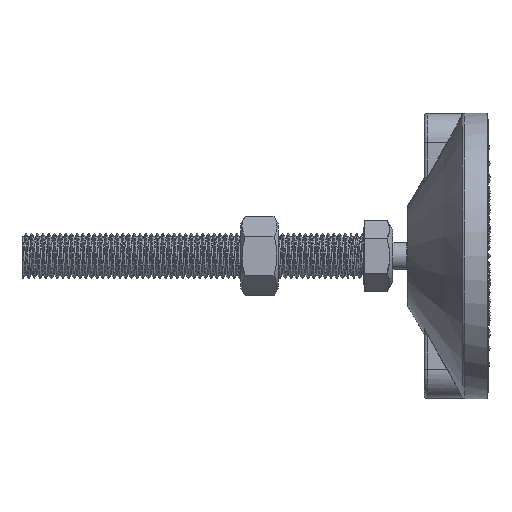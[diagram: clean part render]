
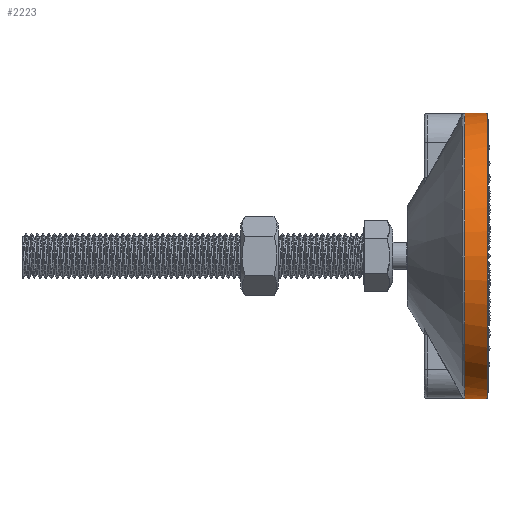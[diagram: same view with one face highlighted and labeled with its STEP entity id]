
A CAD part, left-side view. The second image highlights one B-rep face of the part: STEP entity #2223.
In plain terms, the highlighted cylindrical face has radius 50 mm (diameter 100 mm), a partial arc.
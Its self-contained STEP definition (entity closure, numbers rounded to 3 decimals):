
#686 = VERTEX_POINT ( 'NONE', #37573 ) ;
#1639 = B_SPLINE_CURVE_WITH_KNOTS ( 'NONE', 3,
 ( #20579, #42477, #41626, #25176 ),
 .UNSPECIFIED., .F., .F.,
 ( 4, 4 ),
 ( 0., 0.002 ),
 .UNSPECIFIED. ) ;
#2223 = ADVANCED_FACE ( 'NONE', ( #46158 ), #33762, .T. ) ;
#2317 = ORIENTED_EDGE ( 'NONE', *, *, #8159, .T. ) ;
#2546 = CARTESIAN_POINT ( 'NONE',  ( -1.495, 8.21, 49.978 ) ) ;
#3009 = DIRECTION ( 'NONE',  ( 0., -1., 0. ) ) ;
#3120 = ORIENTED_EDGE ( 'NONE', *, *, #6355, .T. ) ;
#3129 = AXIS2_PLACEMENT_3D ( 'NONE', #5406, #23256, #49487 ) ;
#3220 = DIRECTION ( 'NONE',  ( 0., 0., -1. ) ) ;
#3480 = CARTESIAN_POINT ( 'NONE',  ( 0., 8.5, -50. ) ) ;
#4631 = VERTEX_POINT ( 'NONE', #4994 ) ;
#4994 = CARTESIAN_POINT ( 'NONE',  ( 0., 0., -50. ) ) ;
#5406 = CARTESIAN_POINT ( 'NONE',  ( 0., 7.934, 0. ) ) ;
#6355 = EDGE_CURVE ( 'NONE', #49801, #686, #49158, .T. ) ;
#7833 = CARTESIAN_POINT ( 'NONE',  ( -3.077, 7.934, -49.912 ) ) ;
#7938 = CARTESIAN_POINT ( 'NONE',  ( 0., 0., 50. ) ) ;
#8159 = EDGE_CURVE ( 'NONE', #37562, #4631, #20295, .T. ) ;
#8226 = LINE ( 'NONE', #7938, #36110 ) ;
#8799 = DIRECTION ( 'NONE',  ( 0., -1., 0. ) ) ;
#9758 = AXIS2_PLACEMENT_3D ( 'NONE', #39206, #13273, #22191 ) ;
#11818 = VERTEX_POINT ( 'NONE', #24065 ) ;
#12566 = AXIS2_PLACEMENT_3D ( 'NONE', #28571, #25095, #3220 ) ;
#13273 = DIRECTION ( 'NONE',  ( 0., -1., 0. ) ) ;
#13458 = CIRCLE ( 'NONE', #9758, 50. ) ;
#15859 = ORIENTED_EDGE ( 'NONE', *, *, #49378, .T. ) ;
#16295 = B_SPLINE_CURVE_WITH_KNOTS ( 'NONE', 3,
 ( #40655, #54776, #45563, #53915 ),
 .UNSPECIFIED., .F., .F.,
 ( 4, 4 ),
 ( 0., 0.002 ),
 .UNSPECIFIED. ) ;
#16367 = CARTESIAN_POINT ( 'NONE',  ( -3.883, 7.934, 49.849 ) ) ;
#18743 = CARTESIAN_POINT ( 'NONE',  ( 0., 8.5, 50. ) ) ;
#19481 = EDGE_LOOP ( 'NONE', ( #45860, #24030, #34236, #3120, #40312, #15859, #2317, #31660 ) ) ;
#19875 = CARTESIAN_POINT ( 'NONE',  ( -3.883, 7.934, 49.849 ) ) ;
#20295 = LINE ( 'NONE', #37875, #47587 ) ;
#20579 = CARTESIAN_POINT ( 'NONE',  ( -1.495, 8.21, -49.978 ) ) ;
#22191 = DIRECTION ( 'NONE',  ( 0., 0., -1. ) ) ;
#23256 = DIRECTION ( 'NONE',  ( 0., -1., 0. ) ) ;
#24030 = ORIENTED_EDGE ( 'NONE', *, *, #42780, .T. ) ;
#24065 = CARTESIAN_POINT ( 'NONE',  ( -1.495, 8.21, -49.978 ) ) ;
#24386 = EDGE_CURVE ( 'NONE', #32869, #4631, #13458, .T. ) ;
#25095 = DIRECTION ( 'NONE',  ( 0., -1., 0. ) ) ;
#25176 = CARTESIAN_POINT ( 'NONE',  ( 0., 8.5, -50. ) ) ;
#26354 = B_SPLINE_CURVE_WITH_KNOTS ( 'NONE', 3,
 ( #2546, #38559, #49867, #16367 ),
 .UNSPECIFIED., .F., .F.,
 ( 4, 4 ),
 ( 0., 0.002 ),
 .UNSPECIFIED. ) ;
#26432 = VERTEX_POINT ( 'NONE', #18743 ) ;
#28092 = CARTESIAN_POINT ( 'NONE',  ( 0., 0., 50. ) ) ;
#28571 = CARTESIAN_POINT ( 'NONE',  ( 0., 0., 0. ) ) ;
#31660 = ORIENTED_EDGE ( 'NONE', *, *, #24386, .F. ) ;
#32869 = VERTEX_POINT ( 'NONE', #28092 ) ;
#33762 = CYLINDRICAL_SURFACE ( 'NONE', #12566, 50. ) ;
#34236 = ORIENTED_EDGE ( 'NONE', *, *, #35163, .T. ) ;
#35163 = EDGE_CURVE ( 'NONE', #38421, #49801, #26354, .T. ) ;
#35418 = EDGE_CURVE ( 'NONE', #26432, #32869, #8226, .T. ) ;
#36110 = VECTOR ( 'NONE', #8799, 1000. ) ;
#37562 = VERTEX_POINT ( 'NONE', #3480 ) ;
#37573 = CARTESIAN_POINT ( 'NONE',  ( -3.883, 7.934, -49.849 ) ) ;
#37875 = CARTESIAN_POINT ( 'NONE',  ( 0., 0., -50. ) ) ;
#38421 = VERTEX_POINT ( 'NONE', #51206 ) ;
#38559 = CARTESIAN_POINT ( 'NONE',  ( -2.282, 8.038, 49.954 ) ) ;
#38662 = CARTESIAN_POINT ( 'NONE',  ( -2.282, 8.038, -49.954 ) ) ;
#39206 = CARTESIAN_POINT ( 'NONE',  ( 0., 0., 0. ) ) ;
#40312 = ORIENTED_EDGE ( 'NONE', *, *, #40949, .T. ) ;
#40655 = CARTESIAN_POINT ( 'NONE',  ( 0., 8.5, 50. ) ) ;
#40949 = EDGE_CURVE ( 'NONE', #686, #11818, #56930, .T. ) ;
#41626 = CARTESIAN_POINT ( 'NONE',  ( -0.499, 8.408, -50. ) ) ;
#42477 = CARTESIAN_POINT ( 'NONE',  ( -0.999, 8.318, -49.992 ) ) ;
#42707 = CARTESIAN_POINT ( 'NONE',  ( -3.883, 7.934, -49.849 ) ) ;
#42780 = EDGE_CURVE ( 'NONE', #26432, #38421, #16295, .T. ) ;
#43269 = CARTESIAN_POINT ( 'NONE',  ( -1.495, 8.21, -49.978 ) ) ;
#45563 = CARTESIAN_POINT ( 'NONE',  ( -0.999, 8.318, 49.992 ) ) ;
#45860 = ORIENTED_EDGE ( 'NONE', *, *, #35418, .F. ) ;
#46158 = FACE_OUTER_BOUND ( 'NONE', #19481, .T. ) ;
#47587 = VECTOR ( 'NONE', #3009, 1000. ) ;
#49158 = CIRCLE ( 'NONE', #3129, 50. ) ;
#49378 = EDGE_CURVE ( 'NONE', #11818, #37562, #1639, .T. ) ;
#49487 = DIRECTION ( 'NONE',  ( 0., 0., 1. ) ) ;
#49801 = VERTEX_POINT ( 'NONE', #19875 ) ;
#49867 = CARTESIAN_POINT ( 'NONE',  ( -3.077, 7.934, 49.912 ) ) ;
#51206 = CARTESIAN_POINT ( 'NONE',  ( -1.495, 8.21, 49.978 ) ) ;
#53915 = CARTESIAN_POINT ( 'NONE',  ( -1.495, 8.21, 49.978 ) ) ;
#54776 = CARTESIAN_POINT ( 'NONE',  ( -0.499, 8.408, 50. ) ) ;
#56930 = B_SPLINE_CURVE_WITH_KNOTS ( 'NONE', 3,
 ( #42707, #7833, #38662, #43269 ),
 .UNSPECIFIED., .F., .F.,
 ( 4, 4 ),
 ( 0., 0.002 ),
 .UNSPECIFIED. ) ;
